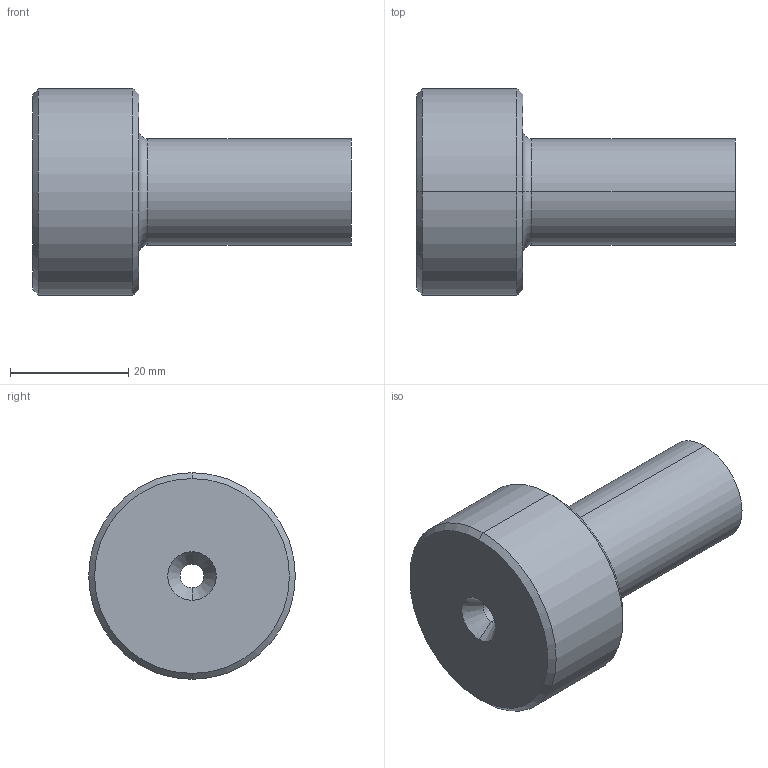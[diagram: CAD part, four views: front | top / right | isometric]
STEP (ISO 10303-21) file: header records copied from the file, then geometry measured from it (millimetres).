
FILE_DESCRIPTION (( 'STEP AP214' ), '1' );
FILE_NAME ('BRB7-036.STEP', '2020-01-29T09:57:01', ( 'August' ), ( '' ), 'SwSTEP 2.0', 'SolidWorks 2018', '' );
FILE_SCHEMA (( 'AUTOMOTIVE_DESIGN' ));
Length unit declared in the file: millimetre
Products named in the file (1): BRB7-036
Bounding box: 54 x 35 x 35 mm (x, y, z)
Volume: 25339.7 mm3; surface area: 6547.1 mm2
Topology: 1 solids, 1 shells, 17 faces, 34 edges, 20 vertices
Faces by surface type: cone 8, cylinder 4, plane 3, torus 2
Entity records: 484 total; most frequent: DIRECTION 92, CARTESIAN_POINT 72, ORIENTED_EDGE 68, AXIS2_PLACEMENT_3D 40, EDGE_CURVE 34, CIRCLE 22, VERTEX_POINT 20, EDGE_LOOP 20
